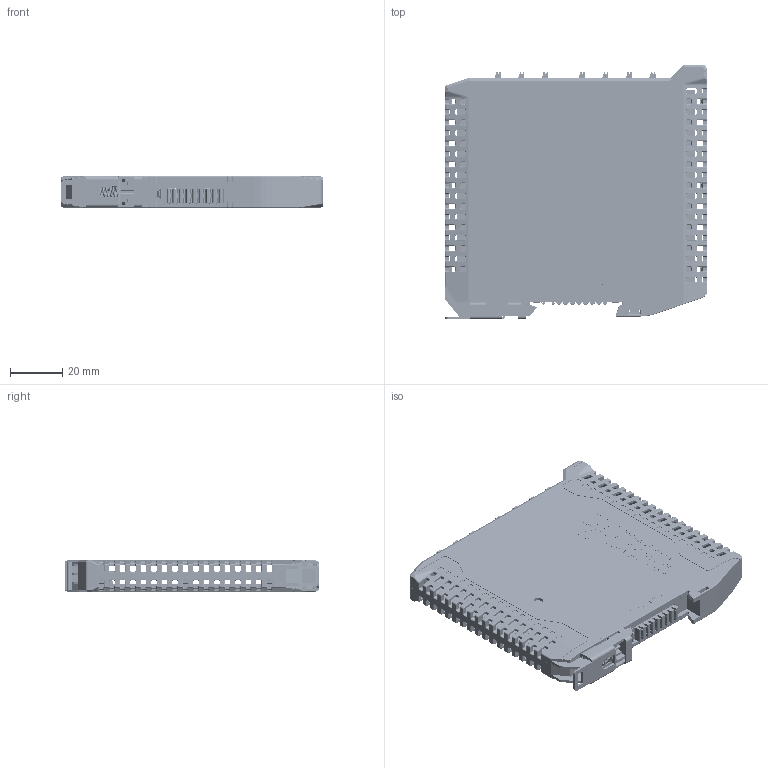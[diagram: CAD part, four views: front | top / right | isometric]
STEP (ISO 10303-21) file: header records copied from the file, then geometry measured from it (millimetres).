
FILE_DESCRIPTION((''),'2;1');
FILE_NAME('DAUDAI_GF2-AI02T','2022-08-22T',('Rex.Song'),(''),'CREO PARAMETRIC BY PTC INC, 2015480','CREO PARAMETRIC BY PTC INC, 2015480','');
FILE_SCHEMA(('CONFIG_CONTROL_DESIGN'));
Products named in the file (1): DAUDAI_GF2-AI02T
Bounding box: 100 x 97 x 12 mm (x, y, z)
Volume: 35439.4 mm3; surface area: 62888.7 mm2
Topology: 5 solids, 6 shells, 8878 faces, 23818 edges, 14938 vertices
Faces by surface type: plane 3653, cylinder 2934, extrusion 934, bspline 717, torus 424, cone 163, sphere 52, revolution 1
Entity records: 402433 total; most frequent: CARTESIAN_POINT 180668, ORIENTED_EDGE 47488, DIRECTION 40430, EDGE_CURVE 23744, VERTEX_POINT 14938, VECTOR 14879, LINE 13945, AXIS2_PLACEMENT_3D 12775
